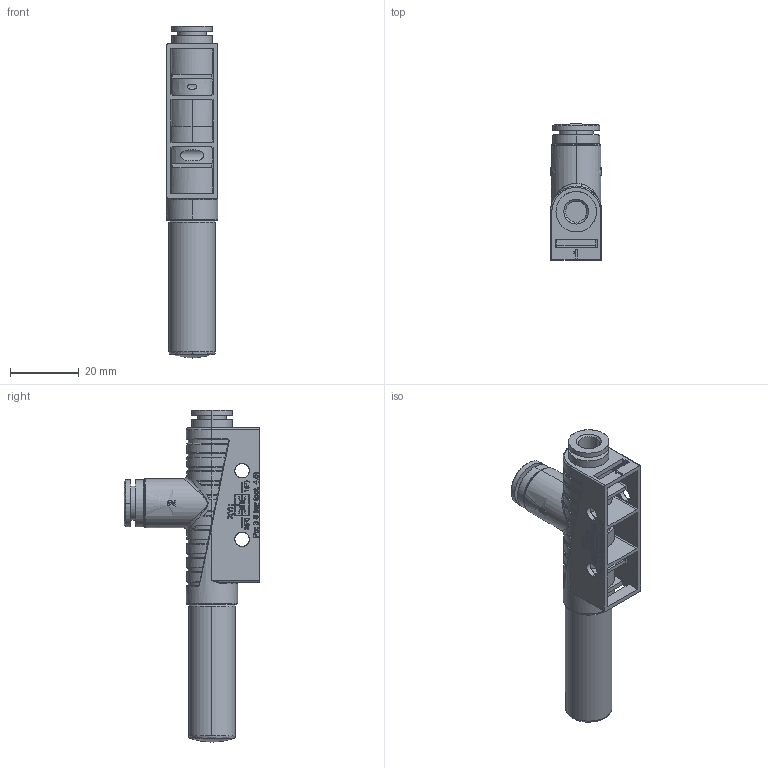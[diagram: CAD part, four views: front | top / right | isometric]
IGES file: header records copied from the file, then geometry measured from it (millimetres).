
Start section: SolidWorks IGES file using analytic representation for surfaces
Global section: file name: C:\Documents and Settings\CAD53\デスクトップ\SBP\183989.IGS; native system: SolidWorks 2006 by SolidWorks Corporation; preprocessor: SolidWorks 2006 by SolidWorks Corporation; author: CAD53; date: 071031.101721; units: millimetre
Bounding box: 15.1 x 39.6 x 96.79 mm (x, y, z)
Surface area: 9536.2 mm2 (no closed solid volume)
Topology: 0 solids, 0 shells, 844 faces, 9509 edges, 9505 vertices
Faces by surface type: bspline 701, revolution 143
